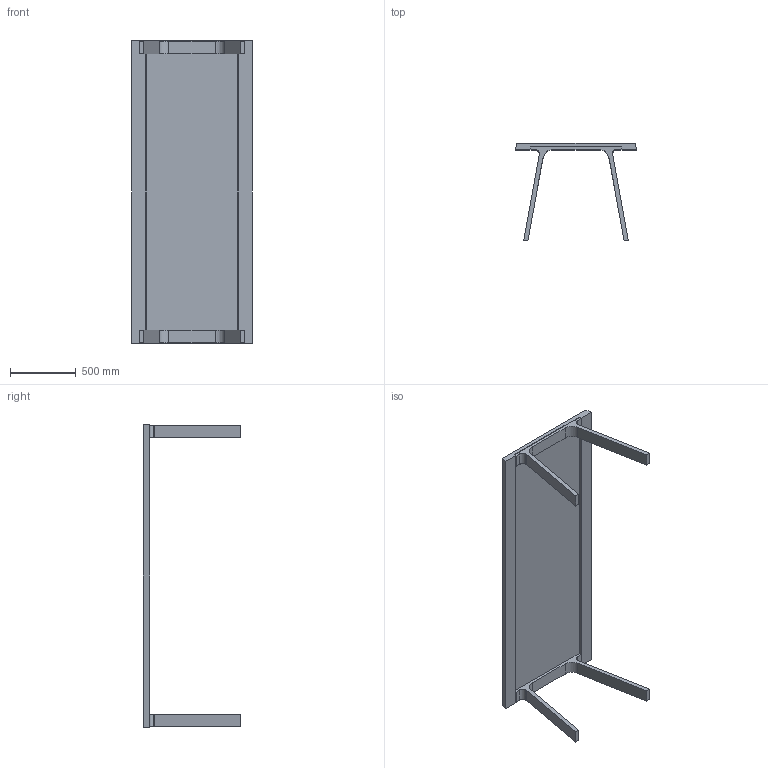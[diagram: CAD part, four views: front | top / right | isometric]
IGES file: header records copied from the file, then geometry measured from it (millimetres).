
Start section: SolidWorks IGES file using analytic representation for surfaces
Global section: file name: G:\Product Info\Doble\3D\solidworks\Doble 230x90x74.IGS; native system: SolidWorks 2008; preprocessor: SolidWorks 2008; author: remko; date: 080826.135723; units: millimetre
Bounding box: 917.63 x 740 x 2300 mm (x, y, z)
Surface area: 5456509.1 mm2 (no closed solid volume)
Topology: 0 solids, 0 shells, 46 faces, 356 edges, 356 vertices
Faces by surface type: bspline 36, revolution 10
